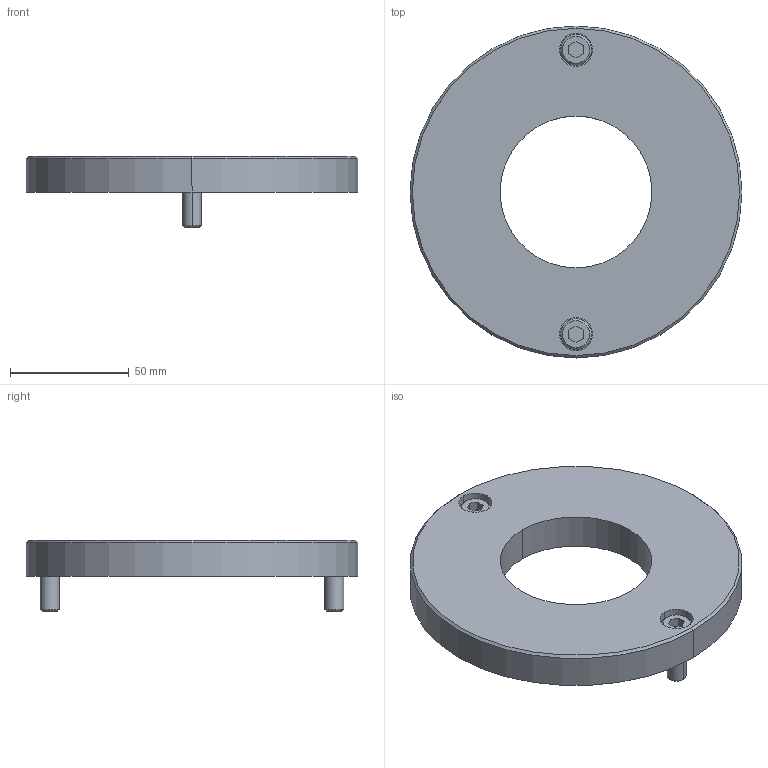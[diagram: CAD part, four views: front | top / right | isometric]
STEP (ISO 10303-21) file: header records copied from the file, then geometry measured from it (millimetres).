
FILE_DESCRIPTION((''),'2;1');
FILE_NAME('','2010-09-08T15:09:22+09:00',('misumi'),(''),'M/STEP i/f 1R2-14','CADmeister v5.1','');
FILE_SCHEMA(('AUTOMOTIVE_DESIGN'));
Length unit declared in the file: millimetre
Products named in the file (1): DSEB60-15-Y
Bounding box: 140 x 140 x 30 mm (x, y, z)
Volume: 182563.2 mm3; surface area: 36906.7 mm2
Topology: 3 solids, 3 shells, 54 faces, 118 edges, 76 vertices
Faces by surface type: plane 24, cylinder 20, cone 10
Entity records: 1613 total; most frequent: DIRECTION 280, CARTESIAN_POINT 247, ORIENTED_EDGE 232, EDGE_CURVE 116, AXIS2_PLACEMENT_3D 107, VERTEX_POINT 74, LINE 66, VECTOR 66
